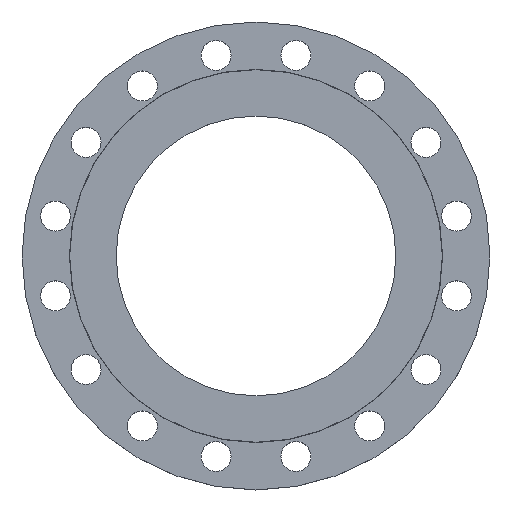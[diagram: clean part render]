
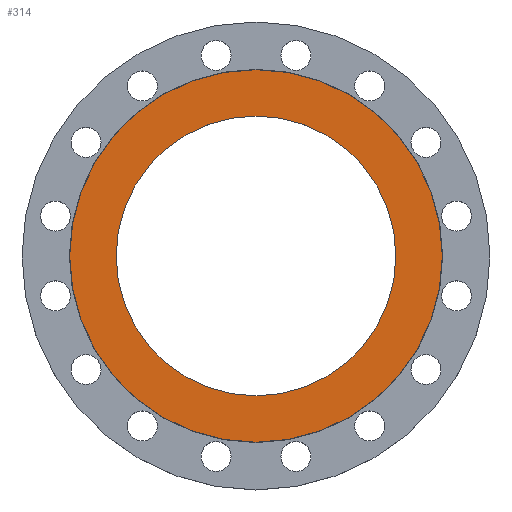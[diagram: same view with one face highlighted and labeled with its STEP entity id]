
A CAD part, top view. The second image highlights one B-rep face of the part: STEP entity #314.
In plain terms, the highlighted planar face has unit normal (0, 0, 1).
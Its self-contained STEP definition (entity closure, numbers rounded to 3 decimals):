
#41 = DIRECTION ( 'NONE',  ( 1., 0., 0. ) ) ;
#42 = DIRECTION ( 'NONE',  ( 0., 0., 1. ) ) ;
#43 = CARTESIAN_POINT ( 'NONE',  ( 0., 0., 0. ) ) ;
#44 = PLANE ( 'NONE',  #620 ) ;
#46 = FACE_OUTER_BOUND ( 'NONE', #726, .T. ) ;
#47 = FACE_BOUND ( 'NONE', #564, .T. ) ;
#53 = CARTESIAN_POINT ( 'NONE',  ( -205., 0., 0. ) ) ;
#74 = CARTESIAN_POINT ( 'NONE',  ( 205., 0., 0. ) ) ;
#81 = CARTESIAN_POINT ( 'NONE',  ( -153.95, 0., 0. ) ) ;
#216 = DIRECTION ( 'NONE',  ( 1., 0., 0. ) ) ;
#226 = DIRECTION ( 'NONE',  ( 0., 0., 1. ) ) ;
#263 = VERTEX_POINT ( 'NONE', #81 ) ;
#273 = VERTEX_POINT ( 'NONE', #74 ) ;
#289 = VERTEX_POINT ( 'NONE', #53 ) ;
#296 = CARTESIAN_POINT ( 'NONE',  ( 0., 0., 0. ) ) ;
#314 = ADVANCED_FACE ( 'NONE', ( #47, #46 ), #44, .T. ) ;
#388 = DIRECTION ( 'NONE',  ( -1., 0., 0. ) ) ;
#389 = DIRECTION ( 'NONE',  ( 0., 0., -1. ) ) ;
#390 = CARTESIAN_POINT ( 'NONE',  ( 0., 0., 0. ) ) ;
#451 = EDGE_CURVE ( 'NONE', #289, #273, #927, .T. ) ;
#538 = DIRECTION ( 'NONE',  ( 0., 0., 1. ) ) ;
#541 = CARTESIAN_POINT ( 'NONE',  ( 0., 0., 0. ) ) ;
#564 = EDGE_LOOP ( 'NONE', ( #643, #688 ) ) ;
#620 = AXIS2_PLACEMENT_3D ( 'NONE', #43, #42, #41 ) ;
#638 = AXIS2_PLACEMENT_3D ( 'NONE', #296, #226, #216 ) ;
#643 = ORIENTED_EDGE ( 'NONE', *, *, #851, .F. ) ;
#645 = CIRCLE ( 'NONE', #638, 153.95 ) ;
#688 = ORIENTED_EDGE ( 'NONE', *, *, #1273, .F. ) ;
#691 = ORIENTED_EDGE ( 'NONE', *, *, #451, .F. ) ;
#692 = ORIENTED_EDGE ( 'NONE', *, *, #1279, .F. ) ;
#707 = CIRCLE ( 'NONE', #714, 153.95 ) ;
#714 = AXIS2_PLACEMENT_3D ( 'NONE', #541, #538, #1140 ) ;
#726 = EDGE_LOOP ( 'NONE', ( #691, #692 ) ) ;
#851 = EDGE_CURVE ( 'NONE', #1015, #263, #707, .T. ) ;
#903 = CIRCLE ( 'NONE', #1241, 205. ) ;
#927 = CIRCLE ( 'NONE', #1092, 205. ) ;
#989 = CARTESIAN_POINT ( 'NONE',  ( 153.95, 0., 0. ) ) ;
#1015 = VERTEX_POINT ( 'NONE', #989 ) ;
#1092 = AXIS2_PLACEMENT_3D ( 'NONE', #1504, #1503, #1502 ) ;
#1140 = DIRECTION ( 'NONE',  ( 1., 0., 0. ) ) ;
#1241 = AXIS2_PLACEMENT_3D ( 'NONE', #390, #389, #388 ) ;
#1273 = EDGE_CURVE ( 'NONE', #263, #1015, #645, .T. ) ;
#1279 = EDGE_CURVE ( 'NONE', #273, #289, #903, .T. ) ;
#1502 = DIRECTION ( 'NONE',  ( -1., 0., 0. ) ) ;
#1503 = DIRECTION ( 'NONE',  ( 0., 0., -1. ) ) ;
#1504 = CARTESIAN_POINT ( 'NONE',  ( 0., 0., 0. ) ) ;
